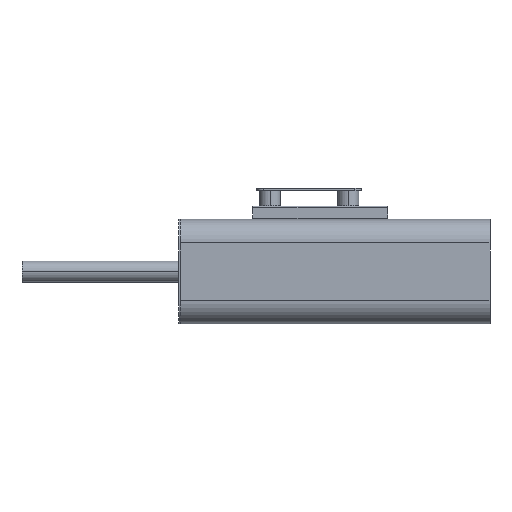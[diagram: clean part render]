
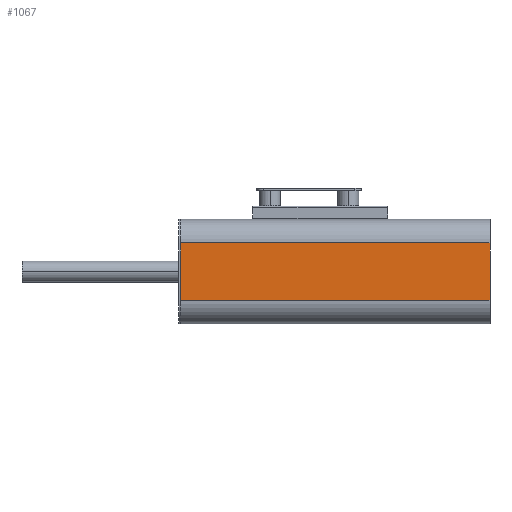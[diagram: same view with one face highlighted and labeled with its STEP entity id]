
A CAD part, left-side view. The second image highlights one B-rep face of the part: STEP entity #1067.
In plain terms, the highlighted planar face has unit normal (-1, 0, 0).
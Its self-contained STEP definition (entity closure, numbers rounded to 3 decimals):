
#33=DIRECTION('',(0.,0.,1.));
#34=VECTOR('',#33,44.);
#35=CARTESIAN_POINT('',(-40.,0.,-22.));
#36=LINE('',#35,#34);
#78=DIRECTION('',(0.,0.,1.));
#79=VECTOR('',#78,44.);
#80=CARTESIAN_POINT('',(-40.,-237.,-22.));
#81=LINE('',#80,#79);
#145=DIRECTION('',(0.,-1.,0.));
#146=VECTOR('',#145,237.);
#147=CARTESIAN_POINT('',(-40.,0.,-22.));
#148=LINE('',#147,#146);
#149=DIRECTION('',(0.,-1.,0.));
#150=VECTOR('',#149,237.);
#151=CARTESIAN_POINT('',(-40.,0.,22.));
#152=LINE('',#151,#150);
#733=CARTESIAN_POINT('',(-40.,-237.,-22.));
#735=VERTEX_POINT('',#733);
#739=CARTESIAN_POINT('',(-40.,0.,-22.));
#740=VERTEX_POINT('',#739);
#742=CARTESIAN_POINT('',(-40.,-237.,22.));
#744=VERTEX_POINT('',#742);
#745=CARTESIAN_POINT('',(-40.,0.,22.));
#746=VERTEX_POINT('',#745);
#1055=CARTESIAN_POINT('',(-40.,0.,-40.));
#1056=DIRECTION('',(-1.,0.,0.));
#1057=DIRECTION('',(0.,0.,1.));
#1058=AXIS2_PLACEMENT_3D('',#1055,#1056,#1057);
#1059=PLANE('',#1058);
#1060=ORIENTED_EDGE('',*,*,#1009,.F.);
#1061=ORIENTED_EDGE('',*,*,#976,.T.);
#1063=ORIENTED_EDGE('',*,*,#1062,.T.);
#1064=ORIENTED_EDGE('',*,*,#1020,.F.);
#1065=EDGE_LOOP('',(#1060,#1061,#1063,#1064));
#1066=FACE_OUTER_BOUND('',#1065,.F.);
#1067=ADVANCED_FACE('',(#1066),#1059,.T.);
#976=EDGE_CURVE('',#740,#746,#36,.T.);
#1009=EDGE_CURVE('',#740,#735,#148,.T.);
#1020=EDGE_CURVE('',#735,#744,#81,.T.);
#1062=EDGE_CURVE('',#746,#744,#152,.T.);
